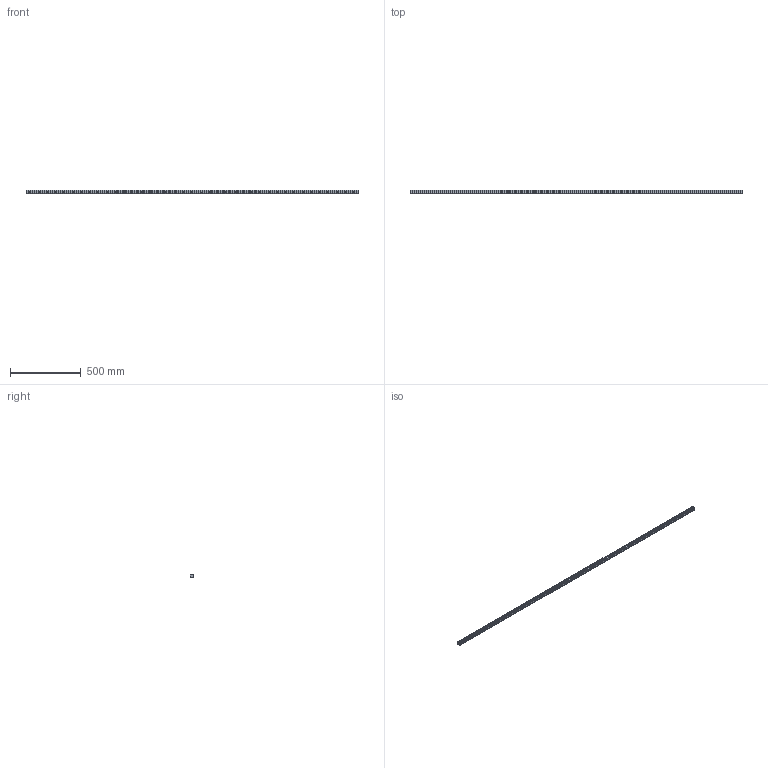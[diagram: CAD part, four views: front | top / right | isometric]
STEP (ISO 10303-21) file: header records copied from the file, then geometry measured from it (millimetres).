
FILE_DESCRIPTION (( 'STEP AP203' ), '1' );
FILE_NAME ('L1018.25R-2340.step', '2023-08-06T10:41:40', ( '' ), ( '' ), 'SwSTEP 2.0', 'SolidWorks 2019', '' );
FILE_SCHEMA (( 'CONFIG_CONTROL_DESIGN' ));
Length unit declared in the file: millimetre
Products named in the file (1): L1018.25R-2340
Bounding box: 2340 x 21.8 x 25 mm (x, y, z)
Volume: 973178.2 mm3; surface area: 233207.1 mm2
Topology: 1 solids, 1 shells, 380 faces, 861 edges, 483 vertices
Faces by surface type: cylinder 159, cone 156, plane 65
Entity records: 10124 total; most frequent: DIRECTION 1941, CARTESIAN_POINT 1647, ORIENTED_EDGE 1566, EDGE_CURVE 783, AXIS2_PLACEMENT_3D 777, VERTEX_POINT 483, EDGE_LOOP 458, CIRCLE 396
